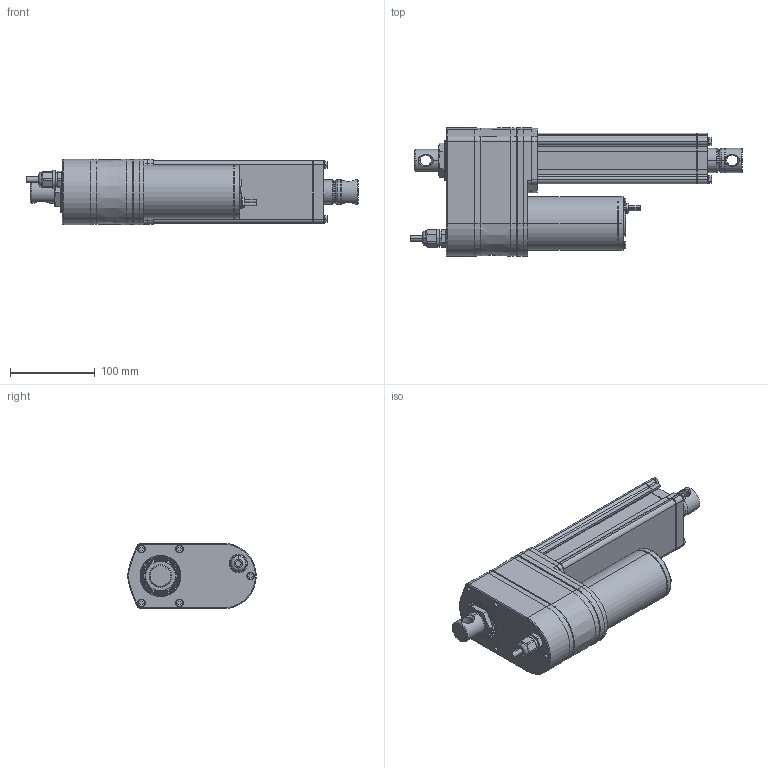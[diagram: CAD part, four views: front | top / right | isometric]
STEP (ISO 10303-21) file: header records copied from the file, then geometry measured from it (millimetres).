
FILE_DESCRIPTION((''),' ');
FILE_NAME('dszy12-100_lt_ltpot_lths.stp',' ',('MSW'),('MSW'),' ','ACIS 14.0',' ');
FILE_SCHEMA(('automotive_design'));
Length unit declared in the file: inch
Products named in the file (2): dszy12-100_lt_ltpot_lths
Bounding box: 392 x 151.7 x 77.2 mm (x, y, z)
Volume: 2183932.9 mm3; surface area: 209147.7 mm2
Topology: 2 solids, 2 shells, 1687 faces, 4097 edges, 2434 vertices
Faces by surface type: plane 1327, cylinder 232, cone 64, torus 40, bspline 24
Entity records: 62295 total; most frequent: CARTESIAN_POINT 8791, DIRECTION 8725, ORIENTED_EDGE 8146, EDGE_CURVE 4073, AXIS2_PLACEMENT_3D 3043, LINE 2639, VECTOR 2639, VERTEX_POINT 2434
